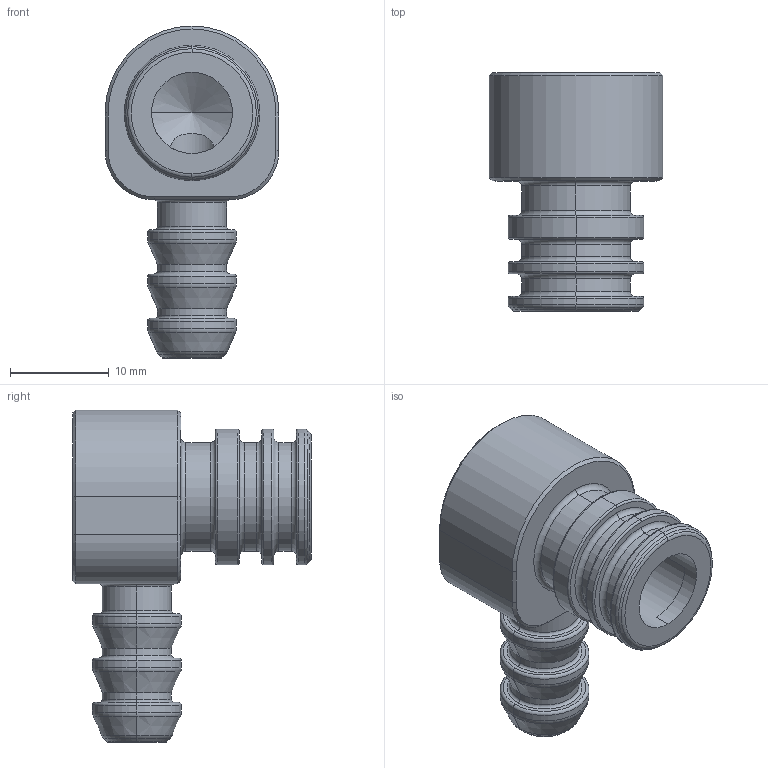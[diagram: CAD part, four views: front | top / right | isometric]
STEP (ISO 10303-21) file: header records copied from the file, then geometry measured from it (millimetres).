
FILE_DESCRIPTION((''),'2;1');
FILE_NAME('DKBA82985189','2026-06-22T16:11:31',('Administrator'),(''),'CREO PARAMETRIC BY PTC INC, 2018400','CREO PARAMETRIC BY PTC INC, 2018400','');
FILE_SCHEMA(('CONFIG_CONTROL_DESIGN'));
Length unit declared in the file: millimetre
Products named in the file (1): DKBA82985189
Bounding box: 17.6 x 24.15 x 33.6 mm (x, y, z)
Volume: 3681.9 mm3; surface area: 3165.9 mm2
Topology: 1 solids, 1 shells, 123 faces, 259 edges, 145 vertices
Faces by surface type: torus 52, cylinder 31, plane 22, cone 18
Entity records: 3375 total; most frequent: DIRECTION 678, CARTESIAN_POINT 588, ORIENTED_EDGE 514, AXIS2_PLACEMENT_3D 302, EDGE_CURVE 257, CIRCLE 179, VERTEX_POINT 145, EDGE_LOOP 134
